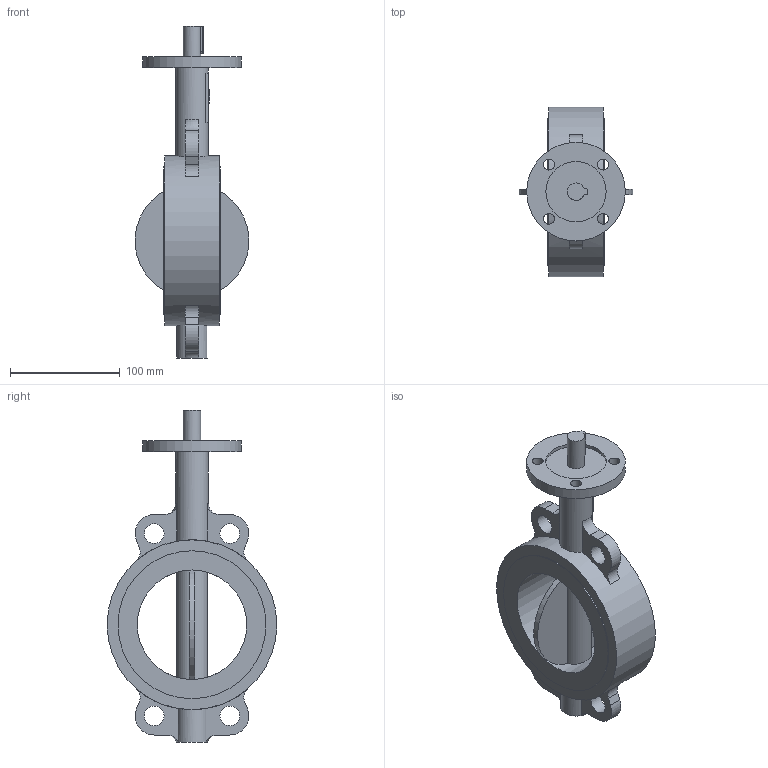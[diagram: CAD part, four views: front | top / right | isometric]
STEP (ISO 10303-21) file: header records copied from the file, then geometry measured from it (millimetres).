
FILE_DESCRIPTION(('STEP AP203'), '1');
FILE_NAME('青蜮铕 017W.Y_DN100_PN10_PN16', '', ('UNSPECIFIED'), ('UNSPECIFIED'), 'ASCON STEP Converter 1.6', 'ASCON Math Kernel', '');
FILE_SCHEMA(('CONFIG_CONTROL_DESIGN'));
Length unit declared in the file: millimetre
Bounding box: 103.62 x 155 x 303 mm (x, y, z)
Volume: 828513.9 mm3; surface area: 119857 mm2
Topology: 1 solids, 1 shells, 91 faces, 228 edges, 150 vertices
Faces by surface type: plane 48, cylinder 39, torus 4
Full cylindrical faces by diameter (mm): 10 x4, 15.8 x1, 18 x4, 30 x1, 55 x1, 90 x1, 100 x1, 135 x2, 155 x1
Entity records: 4698 total; most frequent: CARTESIAN_POINT 1724, DIRECTION 464, ORIENTED_EDGE 424, EDGE_CURVE 212, AXIS2_PLACEMENT_3D 182, VERTEX_POINT 150, EDGE_LOOP 138, FACE_BOUND 108
